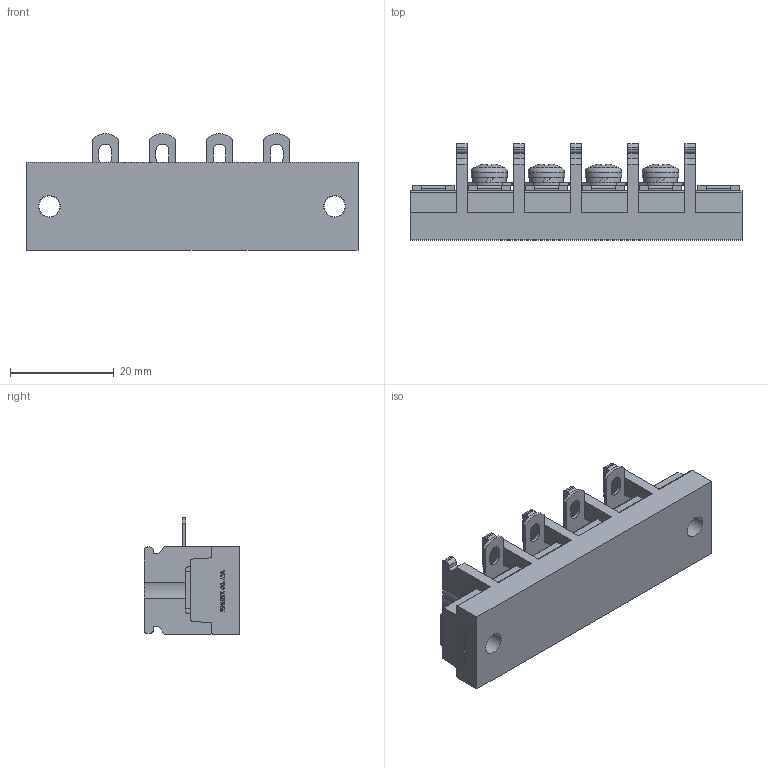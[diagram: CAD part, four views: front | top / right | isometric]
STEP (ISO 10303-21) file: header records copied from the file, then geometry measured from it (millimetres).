
FILE_DESCRIPTION(/* description */ ('Alibre Inc.'),/* implementation_level */ '2;1');
FILE_NAME(/* name */ 'export0',/* time_stamp */ '2015-10-19T19:29:54+09:00',/* author */ (''),/* organization */ (''),/* preprocessor_version */ 'ST-DEVELOPER v14',/* originating_system */ 'Alibre',/* authorisation */ '');
FILE_SCHEMA (('CONFIG_CONTROL_DESIGN'));
Length unit declared in the file: centimetre
Products named in the file (1): ID_1
Bounding box: 64 x 18.5 x 22.5 mm (x, y, z)
Volume: 11509.8 mm3; surface area: 7116.7 mm2
Topology: 1 solids, 1 shells, 988 faces, 2732 edges, 1786 vertices
Faces by surface type: plane 758, bspline 104, cylinder 98, cone 16, torus 8, sphere 4
Full cylindrical faces by diameter (mm): 4 x6, 4.2 x6, 6.5 x4, 7 x4
Entity records: 29584 total; most frequent: CARTESIAN_POINT 6299, ORIENTED_EDGE 5388, DIRECTION 3577, EDGE_CURVE 2694, VECTOR 2005, LINE 2005, VERTEX_POINT 1772, AXIS2_PLACEMENT_3D 1114
